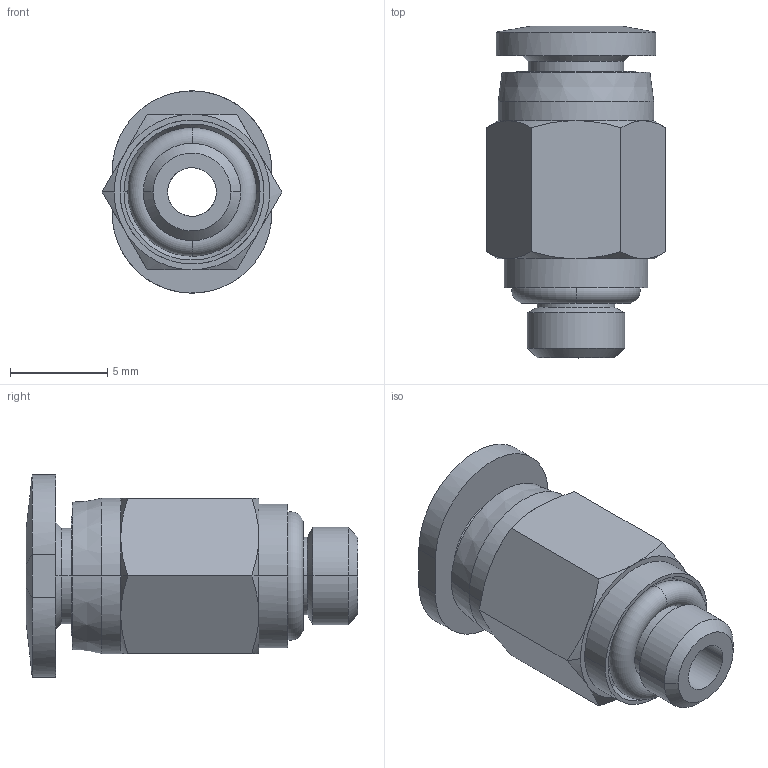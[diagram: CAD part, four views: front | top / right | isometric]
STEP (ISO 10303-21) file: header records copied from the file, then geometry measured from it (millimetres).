
FILE_DESCRIPTION (( 'STEP AP203' ), '1' );
FILE_NAME ('FMH04-M5.STEP', '2020-07-07T10:50:13', ( '' ), ( '' ), 'SwSTEP 2.0', 'SolidWorks 2019', '' );
FILE_SCHEMA (( 'CONFIG_CONTROL_DESIGN' ));
Length unit declared in the file: millimetre
Products named in the file (1): FMH04-M5
Bounding box: 9.24 x 17.07 x 10.4 mm (x, y, z)
Surface area: 871.3 mm2 (no closed solid volume)
Topology: 0 solids, 4 shells, 72 faces, 161 edges, 99 vertices
Faces by surface type: cone 24, cylinder 20, plane 18, torus 6, bspline 4
Entity records: 3359 total; most frequent: CARTESIAN_POINT 1955, ORIENTED_EDGE 306, DIRECTION 180, EDGE_CURVE 161, B_SPLINE_CURVE_WITH_KNOTS 125, VERTEX_POINT 99, EDGE_LOOP 82, AXIS2_PLACEMENT_3D 75
